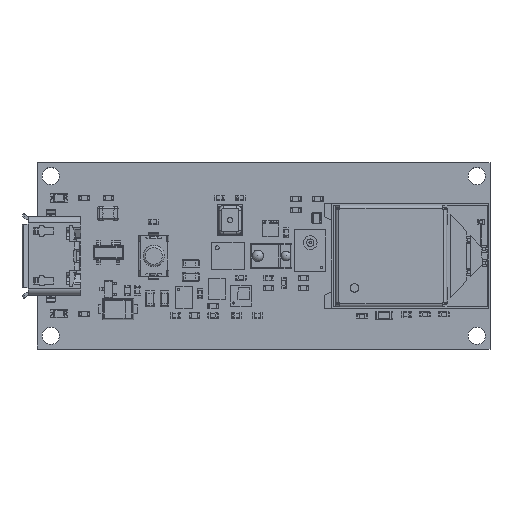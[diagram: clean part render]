
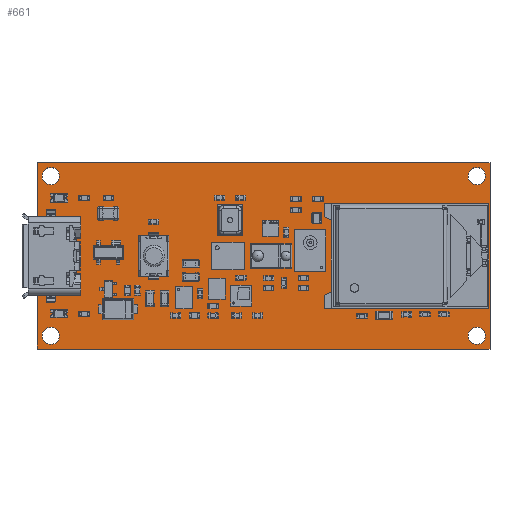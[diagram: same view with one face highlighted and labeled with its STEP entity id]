
A CAD part, top view. The second image highlights one B-rep face of the part: STEP entity #661.
In plain terms, the highlighted planar face has unit normal (0, 0, 1).
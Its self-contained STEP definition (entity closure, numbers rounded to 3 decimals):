
#260 = VERTEX_POINT('',#261);
#261 = CARTESIAN_POINT('',(43.18,0.,1.606));
#267 = EDGE_CURVE('',#260,#268,#270,.T.);
#268 = VERTEX_POINT('',#269);
#269 = CARTESIAN_POINT('',(0.,0.,1.606));
#270 = LINE('',#271,#272);
#271 = CARTESIAN_POINT('',(43.18,0.,1.606));
#272 = VECTOR('',#273,1.);
#273 = DIRECTION('',(-1.,0.,0.));
#298 = EDGE_CURVE('',#268,#299,#301,.T.);
#299 = VERTEX_POINT('',#300);
#300 = CARTESIAN_POINT('',(0.,1.,1.606));
#301 = LINE('',#302,#303);
#302 = CARTESIAN_POINT('',(0.,0.,1.606));
#303 = VECTOR('',#304,1.);
#304 = DIRECTION('',(0.,1.,0.));
#329 = EDGE_CURVE('',#299,#330,#332,.T.);
#330 = VERTEX_POINT('',#331);
#331 = CARTESIAN_POINT('',(0.,13.,1.606));
#332 = LINE('',#333,#334);
#333 = CARTESIAN_POINT('',(0.,0.,1.606));
#334 = VECTOR('',#335,1.);
#335 = DIRECTION('',(0.,1.,0.));
#360 = EDGE_CURVE('',#330,#361,#363,.T.);
#361 = VERTEX_POINT('',#362);
#362 = CARTESIAN_POINT('',(0.,17.78,1.606));
#363 = LINE('',#364,#365);
#364 = CARTESIAN_POINT('',(0.,0.,1.606));
#365 = VECTOR('',#366,1.);
#366 = DIRECTION('',(0.,1.,0.));
#391 = EDGE_CURVE('',#361,#392,#394,.T.);
#392 = VERTEX_POINT('',#393);
#393 = CARTESIAN_POINT('',(43.18,17.78,1.606));
#394 = LINE('',#395,#396);
#395 = CARTESIAN_POINT('',(0.,17.78,1.606));
#396 = VECTOR('',#397,1.);
#397 = DIRECTION('',(1.,0.,0.));
#422 = EDGE_CURVE('',#392,#423,#425,.T.);
#423 = VERTEX_POINT('',#424);
#424 = CARTESIAN_POINT('',(43.18,10.5,1.606));
#425 = LINE('',#426,#427);
#426 = CARTESIAN_POINT('',(43.18,17.78,1.606));
#427 = VECTOR('',#428,1.);
#428 = DIRECTION('',(0.,-1.,0.));
#453 = EDGE_CURVE('',#423,#454,#456,.T.);
#454 = VERTEX_POINT('',#455);
#455 = CARTESIAN_POINT('',(43.18,6.5,1.606));
#456 = LINE('',#457,#458);
#457 = CARTESIAN_POINT('',(43.18,17.78,1.606));
#458 = VECTOR('',#459,1.);
#459 = DIRECTION('',(0.,-1.,0.));
#484 = EDGE_CURVE('',#454,#260,#485,.T.);
#485 = LINE('',#486,#487);
#486 = CARTESIAN_POINT('',(43.18,17.78,1.606));
#487 = VECTOR('',#488,1.);
#488 = DIRECTION('',(0.,-1.,0.));
#508 = VERTEX_POINT('',#509);
#509 = CARTESIAN_POINT('',(2.096,1.27,1.606));
#515 = EDGE_CURVE('',#508,#508,#516,.T.);
#516 = CIRCLE('',#517,0.826);
#517 = AXIS2_PLACEMENT_3D('',#518,#519,#520);
#518 = CARTESIAN_POINT('',(1.27,1.27,1.606));
#519 = DIRECTION('',(0.,0.,1.));
#520 = DIRECTION('',(1.,0.,-0.));
#541 = VERTEX_POINT('',#542);
#542 = CARTESIAN_POINT('',(2.096,16.51,1.606));
#548 = EDGE_CURVE('',#541,#541,#549,.T.);
#549 = CIRCLE('',#550,0.826);
#550 = AXIS2_PLACEMENT_3D('',#551,#552,#553);
#551 = CARTESIAN_POINT('',(1.27,16.51,1.606));
#552 = DIRECTION('',(0.,0.,1.));
#553 = DIRECTION('',(1.,0.,-0.));
#574 = VERTEX_POINT('',#575);
#575 = CARTESIAN_POINT('',(42.736,1.27,1.606));
#581 = EDGE_CURVE('',#574,#574,#582,.T.);
#582 = CIRCLE('',#583,0.826);
#583 = AXIS2_PLACEMENT_3D('',#584,#585,#586);
#584 = CARTESIAN_POINT('',(41.91,1.27,1.606));
#585 = DIRECTION('',(0.,0.,1.));
#586 = DIRECTION('',(1.,0.,-0.));
#607 = VERTEX_POINT('',#608);
#608 = CARTESIAN_POINT('',(42.736,16.51,1.606));
#614 = EDGE_CURVE('',#607,#607,#615,.T.);
#615 = CIRCLE('',#616,0.826);
#616 = AXIS2_PLACEMENT_3D('',#617,#618,#619);
#617 = CARTESIAN_POINT('',(41.91,16.51,1.606));
#618 = DIRECTION('',(0.,0.,1.));
#619 = DIRECTION('',(1.,0.,-0.));
#661 = ADVANCED_FACE('',(#662,#672,#675,#678,#681),#684,.F.);
#662 = FACE_BOUND('',#663,.F.);
#663 = EDGE_LOOP('',(#664,#665,#666,#667,#668,#669,#670,#671));
#664 = ORIENTED_EDGE('',*,*,#267,.T.);
#665 = ORIENTED_EDGE('',*,*,#298,.T.);
#666 = ORIENTED_EDGE('',*,*,#329,.T.);
#667 = ORIENTED_EDGE('',*,*,#360,.T.);
#668 = ORIENTED_EDGE('',*,*,#391,.T.);
#669 = ORIENTED_EDGE('',*,*,#422,.T.);
#670 = ORIENTED_EDGE('',*,*,#453,.T.);
#671 = ORIENTED_EDGE('',*,*,#484,.T.);
#672 = FACE_BOUND('',#673,.F.);
#673 = EDGE_LOOP('',(#674));
#674 = ORIENTED_EDGE('',*,*,#515,.T.);
#675 = FACE_BOUND('',#676,.F.);
#676 = EDGE_LOOP('',(#677));
#677 = ORIENTED_EDGE('',*,*,#548,.T.);
#678 = FACE_BOUND('',#679,.F.);
#679 = EDGE_LOOP('',(#680));
#680 = ORIENTED_EDGE('',*,*,#581,.T.);
#681 = FACE_BOUND('',#682,.F.);
#682 = EDGE_LOOP('',(#683));
#683 = ORIENTED_EDGE('',*,*,#614,.T.);
#684 = PLANE('',#685);
#685 = AXIS2_PLACEMENT_3D('',#686,#687,#688);
#686 = CARTESIAN_POINT('',(21.59,8.89,1.606));
#687 = DIRECTION('',(-0.,-0.,-1.));
#688 = DIRECTION('',(-1.,0.,0.));
